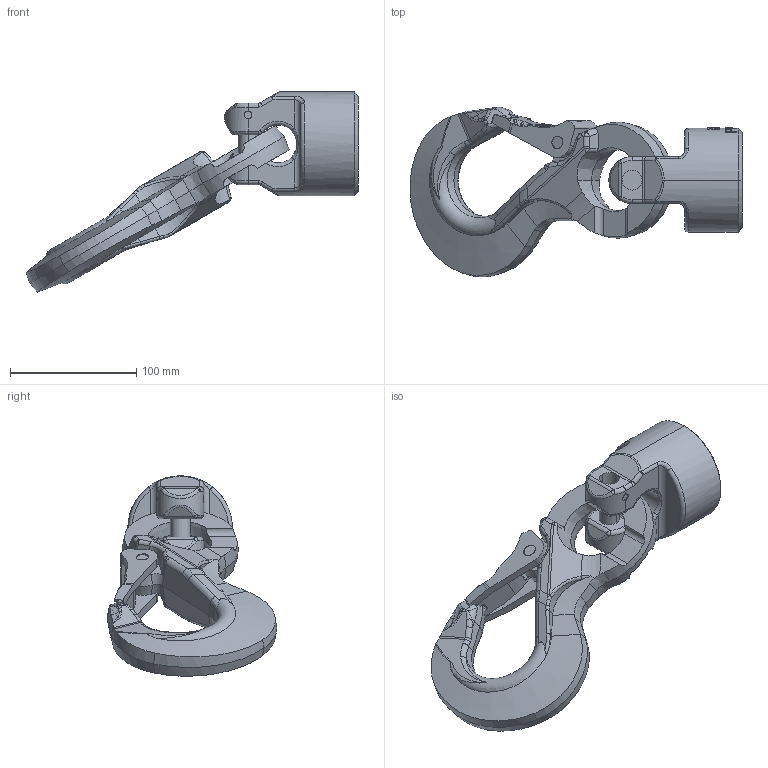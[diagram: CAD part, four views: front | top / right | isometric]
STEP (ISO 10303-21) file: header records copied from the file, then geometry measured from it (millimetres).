
FILE_DESCRIPTION((''),'2;1');
FILE_NAME('001-M31395-P-50_ASM','2018-04-26T',('Anja.Joas'),(''),'PRO/ENGINEER BY PARAMETRIC TECHNOLOGY CORPORATION, 2011490','PRO/ENGINEER BY PARAMETRIC TECHNOLOGY CORPORATION, 2011490','');
FILE_SCHEMA(('CONFIG_CONTROL_DESIGN'));
Length unit declared in the file: millimetre
Products named in the file (5): 001-M31395-P-20_AF0; 001-M31479-001; 001-M31480-001; 001-M31479-002_ASM; 001-M31395-P-50_ASM
Assembly tree (4 placements, depth 3):
  001-M31395-P-50_ASM
    001-M31395-P-20_AF0
    001-M31479-002_ASM
      001-M31479-001
      001-M31480-001
Bounding box: 263.06 x 134.49 x 158.66 mm (x, y, z)
Volume: 719491.7 mm3; surface area: 97696 mm2
Topology: 3 solids, 3 shells, 708 faces, 1878 edges, 1176 vertices
Faces by surface type: plane 376, cylinder 128, bspline 88, sphere 42, cone 38, torus 36
Entity records: 26573 total; most frequent: CARTESIAN_POINT 10163, ORIENTED_EDGE 3700, DIRECTION 2995, EDGE_CURVE 1850, VERTEX_POINT 1176, AXIS2_PLACEMENT_3D 1089, VECTOR 817, LINE 817
